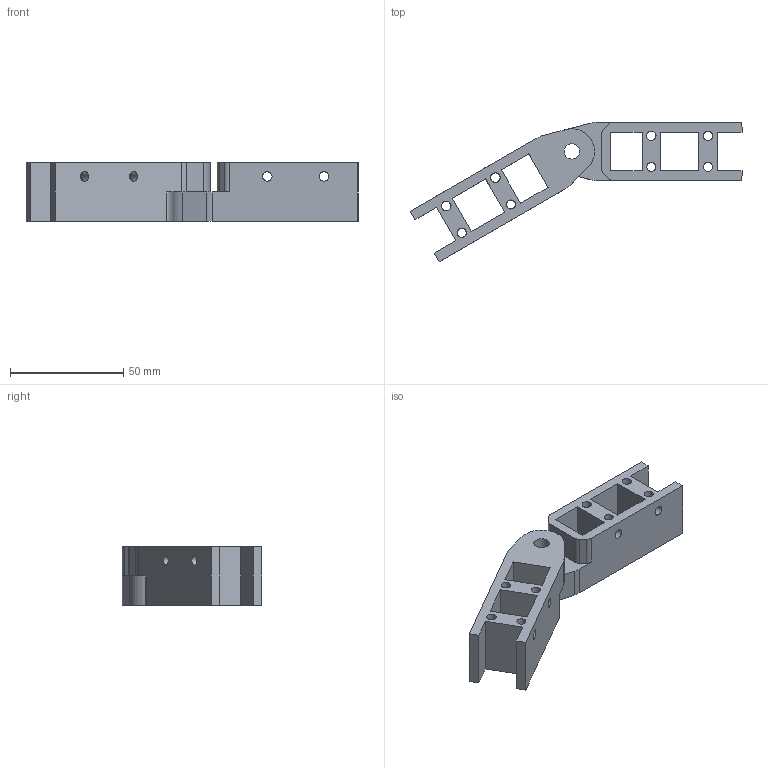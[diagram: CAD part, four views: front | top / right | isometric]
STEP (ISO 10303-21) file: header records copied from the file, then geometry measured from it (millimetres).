
FILE_DESCRIPTION (( 'STEP AP214' ), '1' );
FILE_NAME ('N15606.step', '2024-12-03T16:26:04', ( '' ), ( '' ), 'SwSTEP 2.0', 'SolidWorks 2023', '' );
FILE_SCHEMA (( 'AUTOMOTIVE_DESIGN' ));
Length unit declared in the file: millimetre
Products named in the file (3): N15606-SUP; N15606; N15606-INF
Assembly tree (2 placements, depth 2):
  N15606
    N15606-SUP
    N15606-INF
Bounding box: 146.38 x 61.48 x 25.7 mm (x, y, z)
Volume: 51445 mm3; surface area: 26443.5 mm2
Topology: 2 solids, 2 shells, 87 faces, 276 edges, 181 vertices
Faces by surface type: plane 46, cylinder 40, cone 1
Full cylindrical faces by diameter (mm): 4 x8, 4.2 x16, 6.8 x1, 9 x1
Entity records: 3376 total; most frequent: CARTESIAN_POINT 1054, ORIENTED_EDGE 442, DIRECTION 438, EDGE_CURVE 221, EDGE_LOOP 158, VERTEX_POINT 157, AXIS2_PLACEMENT_3D 149, LINE 140
